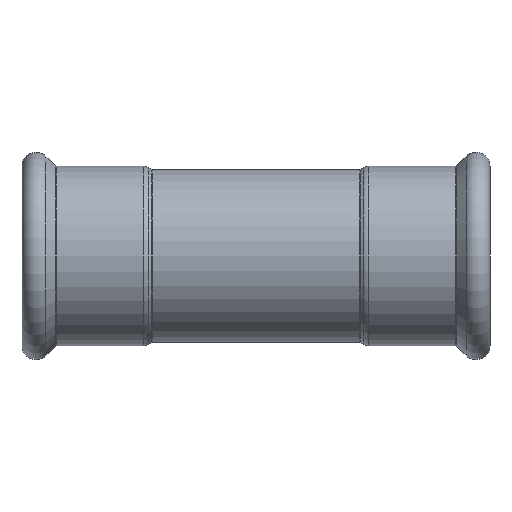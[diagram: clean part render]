
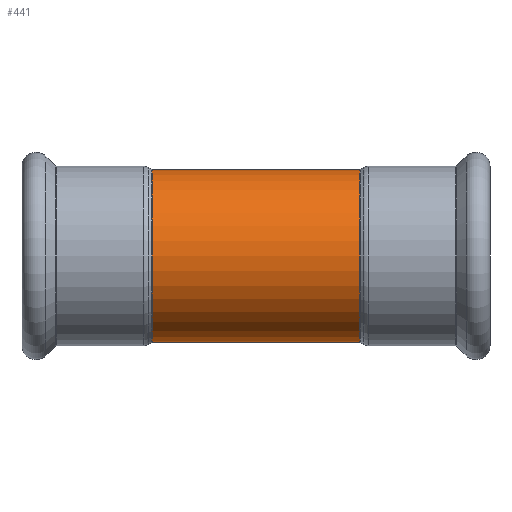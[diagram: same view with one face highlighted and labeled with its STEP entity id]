
A CAD part, front view. The second image highlights one B-rep face of the part: STEP entity #441.
In plain terms, the highlighted cylindrical face has radius 18.5 mm (diameter 37 mm), a partial arc.
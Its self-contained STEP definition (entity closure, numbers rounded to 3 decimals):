
#205 = VERTEX_POINT ( 'NONE', #3426 ) ;
#441 = ADVANCED_FACE ( 'NONE', ( #2125 ), #484, .T. ) ;
#484 = CYLINDRICAL_SURFACE ( 'NONE', #3552, 18.5 ) ;
#534 = CIRCLE ( 'NONE', #599, 18.5 ) ;
#599 = AXIS2_PLACEMENT_3D ( 'NONE', #2382, #1410, #2392 ) ;
#904 = CARTESIAN_POINT ( 'NONE',  ( 22.154, 0., 0. ) ) ;
#1032 = VERTEX_POINT ( 'NONE', #3799 ) ;
#1096 = EDGE_CURVE ( 'NONE', #1032, #3812, #1356, .T. ) ;
#1101 = EDGE_CURVE ( 'NONE', #205, #2059, #2282, .T. ) ;
#1196 = ORIENTED_EDGE ( 'NONE', *, *, #1096, .T. ) ;
#1220 = DIRECTION ( 'NONE',  ( 0., 0., 1. ) ) ;
#1257 = VECTOR ( 'NONE', #1288, 1000. ) ;
#1275 = CARTESIAN_POINT ( 'NONE',  ( 27.146, 0., 18.5 ) ) ;
#1288 = DIRECTION ( 'NONE',  ( -1., 0., 0. ) ) ;
#1356 = LINE ( 'NONE', #1275, #1257 ) ;
#1410 = DIRECTION ( 'NONE',  ( -1., 0., 0. ) ) ;
#1599 = ORIENTED_EDGE ( 'NONE', *, *, #2289, .F. ) ;
#1610 = ORIENTED_EDGE ( 'NONE', *, *, #3310, .T. ) ;
#1642 = ORIENTED_EDGE ( 'NONE', *, *, #1101, .F. ) ;
#1829 = EDGE_LOOP ( 'NONE', ( #1642, #1610, #1196, #1599 ) ) ;
#2002 = CARTESIAN_POINT ( 'NONE',  ( -22.154, 0., -18.5 ) ) ;
#2030 = AXIS2_PLACEMENT_3D ( 'NONE', #904, #4160, #1220 ) ;
#2059 = VERTEX_POINT ( 'NONE', #2002 ) ;
#2125 = FACE_OUTER_BOUND ( 'NONE', #1829, .T. ) ;
#2170 = CARTESIAN_POINT ( 'NONE',  ( -22.154, 0., 18.5 ) ) ;
#2282 = LINE ( 'NONE', #3929, #3063 ) ;
#2289 = EDGE_CURVE ( 'NONE', #2059, #3812, #534, .T. ) ;
#2382 = CARTESIAN_POINT ( 'NONE',  ( -22.154, 0., 0. ) ) ;
#2392 = DIRECTION ( 'NONE',  ( 0., 0., 1. ) ) ;
#2443 = DIRECTION ( 'NONE',  ( 0., 0., 1. ) ) ;
#2717 = CARTESIAN_POINT ( 'NONE',  ( 27.146, 0., 0. ) ) ;
#3063 = VECTOR ( 'NONE', #4205, 1000. ) ;
#3310 = EDGE_CURVE ( 'NONE', #205, #1032, #3373, .T. ) ;
#3373 = CIRCLE ( 'NONE', #2030, 18.5 ) ;
#3426 = CARTESIAN_POINT ( 'NONE',  ( 22.154, 0., -18.5 ) ) ;
#3552 = AXIS2_PLACEMENT_3D ( 'NONE', #2717, #4060, #2443 ) ;
#3799 = CARTESIAN_POINT ( 'NONE',  ( 22.154, 0., 18.5 ) ) ;
#3812 = VERTEX_POINT ( 'NONE', #2170 ) ;
#3929 = CARTESIAN_POINT ( 'NONE',  ( 27.146, 0., -18.5 ) ) ;
#4060 = DIRECTION ( 'NONE',  ( -1., 0., 0. ) ) ;
#4160 = DIRECTION ( 'NONE',  ( -1., 0., 0. ) ) ;
#4205 = DIRECTION ( 'NONE',  ( -1., 0., 0. ) ) ;
